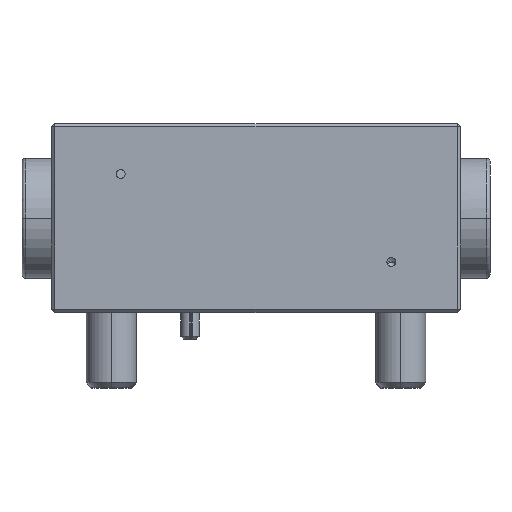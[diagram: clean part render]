
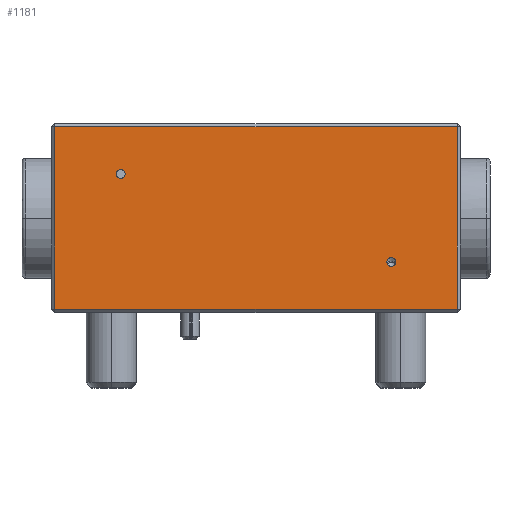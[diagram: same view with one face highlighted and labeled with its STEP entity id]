
A CAD part, top view. The second image highlights one B-rep face of the part: STEP entity #1181.
In plain terms, the highlighted planar face has unit normal (0, 0, 1).
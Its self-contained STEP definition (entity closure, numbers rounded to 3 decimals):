
#84 = ORIENTED_EDGE ( 'NONE', *, *, #4997, .T. ) ;
#688 = VERTEX_POINT ( 'NONE', #9455 ) ;
#799 = VERTEX_POINT ( 'NONE', #7774 ) ;
#919 = VECTOR ( 'NONE', #7552, 1000. ) ;
#1018 = ORIENTED_EDGE ( 'NONE', *, *, #5095, .F. ) ;
#1181 = ADVANCED_FACE ( 'NONE', ( #9036, #15653, #13327 ), #8245, .T. ) ;
#1537 = CARTESIAN_POINT ( 'NONE',  ( -32.5, 15., 32.5 ) ) ;
#1575 = EDGE_CURVE ( 'NONE', #13477, #10915, #7044, .T. ) ;
#1590 = DIRECTION ( 'NONE',  ( 0., 0., 1. ) ) ;
#1601 = EDGE_CURVE ( 'NONE', #15476, #799, #14602, .T. ) ;
#1736 = VECTOR ( 'NONE', #3644, 1000. ) ;
#1884 = AXIS2_PLACEMENT_3D ( 'NONE', #8626, #8646, #8672 ) ;
#1907 = AXIS2_PLACEMENT_3D ( 'NONE', #8129, #8153, #8194 ) ;
#2637 = CARTESIAN_POINT ( 'NONE',  ( -22.2, 7., 32.5 ) ) ;
#3059 = ORIENTED_EDGE ( 'NONE', *, *, #1601, .F. ) ;
#3644 = DIRECTION ( 'NONE',  ( 1., 0., 0. ) ) ;
#4120 = CARTESIAN_POINT ( 'NONE',  ( 32., -14.5, 32.5 ) ) ;
#4188 = CARTESIAN_POINT ( 'NONE',  ( 32.5, -14.5, 32.5 ) ) ;
#4233 = ORIENTED_EDGE ( 'NONE', *, *, #5041, .T. ) ;
#4323 = LINE ( 'NONE', #4188, #1736 ) ;
#4346 = DIRECTION ( 'NONE',  ( 1., 0., 0. ) ) ;
#4489 = VERTEX_POINT ( 'NONE', #4120 ) ;
#4576 = DIRECTION ( 'NONE',  ( 0., 0., 1. ) ) ;
#4633 = CARTESIAN_POINT ( 'NONE',  ( -21.5, 7., 32.5 ) ) ;
#4946 = CARTESIAN_POINT ( 'NONE',  ( -32., -14.5, 32.5 ) ) ;
#4997 = EDGE_CURVE ( 'NONE', #11361, #4489, #4323, .T. ) ;
#5041 = EDGE_CURVE ( 'NONE', #4489, #15957, #13923, .T. ) ;
#5090 = EDGE_CURVE ( 'NONE', #15957, #688, #7112, .T. ) ;
#5092 = EDGE_CURVE ( 'NONE', #688, #11361, #16683, .T. ) ;
#5095 = EDGE_CURVE ( 'NONE', #10915, #13477, #14932, .T. ) ;
#5117 = EDGE_CURVE ( 'NONE', #799, #15476, #10894, .T. ) ;
#5383 = DIRECTION ( 'NONE',  ( 0., 1., 0. ) ) ;
#5429 = ORIENTED_EDGE ( 'NONE', *, *, #1575, .F. ) ;
#5434 = CARTESIAN_POINT ( 'NONE',  ( 32., 15., 32.5 ) ) ;
#6219 = EDGE_LOOP ( 'NONE', ( #14915, #3059 ) ) ;
#6536 = CARTESIAN_POINT ( 'NONE',  ( -32.5, 14.5, 32.5 ) ) ;
#7044 = CIRCLE ( 'NONE', #11820, 0.7 ) ;
#7112 = LINE ( 'NONE', #6536, #919 ) ;
#7552 = DIRECTION ( 'NONE',  ( -1., 0., 0. ) ) ;
#7755 = CARTESIAN_POINT ( 'NONE',  ( -32., -15., 32.5 ) ) ;
#7774 = CARTESIAN_POINT ( 'NONE',  ( 22.2, -7., 32.5 ) ) ;
#7915 = DIRECTION ( 'NONE',  ( 1., 0., 0. ) ) ;
#7930 = DIRECTION ( 'NONE',  ( 0., -1., 0. ) ) ;
#8129 = CARTESIAN_POINT ( 'NONE',  ( -21.5, 7., 32.5 ) ) ;
#8153 = DIRECTION ( 'NONE',  ( 0., 0., 1. ) ) ;
#8194 = DIRECTION ( 'NONE',  ( 1., 0., 0. ) ) ;
#8245 = PLANE ( 'NONE',  #12570 ) ;
#8626 = CARTESIAN_POINT ( 'NONE',  ( 21.5, -7., 32.5 ) ) ;
#8646 = DIRECTION ( 'NONE',  ( 0., 0., 1. ) ) ;
#8672 = DIRECTION ( 'NONE',  ( 1., 0., 0. ) ) ;
#8928 = EDGE_LOOP ( 'NONE', ( #84, #4233, #14802, #15250 ) ) ;
#9036 = FACE_OUTER_BOUND ( 'NONE', #8928, .T. ) ;
#9204 = DIRECTION ( 'NONE',  ( 0., 0., 1. ) ) ;
#9267 = CARTESIAN_POINT ( 'NONE',  ( 21.5, -7., 32.5 ) ) ;
#9455 = CARTESIAN_POINT ( 'NONE',  ( -32., 14.5, 32.5 ) ) ;
#10188 = CARTESIAN_POINT ( 'NONE',  ( 32., 14.5, 32.5 ) ) ;
#10894 = CIRCLE ( 'NONE', #1884, 0.7 ) ;
#10915 = VERTEX_POINT ( 'NONE', #16154 ) ;
#11328 = VECTOR ( 'NONE', #7930, 1000. ) ;
#11361 = VERTEX_POINT ( 'NONE', #4946 ) ;
#11784 = AXIS2_PLACEMENT_3D ( 'NONE', #9267, #9204, #7915 ) ;
#11820 = AXIS2_PLACEMENT_3D ( 'NONE', #4633, #4576, #4346 ) ;
#12008 = EDGE_LOOP ( 'NONE', ( #1018, #5429 ) ) ;
#12570 = AXIS2_PLACEMENT_3D ( 'NONE', #1537, #1590, #14811 ) ;
#13168 = CARTESIAN_POINT ( 'NONE',  ( 20.8, -7., 32.5 ) ) ;
#13327 = FACE_BOUND ( 'NONE', #6219, .T. ) ;
#13477 = VERTEX_POINT ( 'NONE', #2637 ) ;
#13923 = LINE ( 'NONE', #5434, #16424 ) ;
#14602 = CIRCLE ( 'NONE', #11784, 0.7 ) ;
#14802 = ORIENTED_EDGE ( 'NONE', *, *, #5090, .T. ) ;
#14811 = DIRECTION ( 'NONE',  ( 1., 0., 0. ) ) ;
#14915 = ORIENTED_EDGE ( 'NONE', *, *, #5117, .F. ) ;
#14932 = CIRCLE ( 'NONE', #1907, 0.7 ) ;
#15250 = ORIENTED_EDGE ( 'NONE', *, *, #5092, .T. ) ;
#15476 = VERTEX_POINT ( 'NONE', #13168 ) ;
#15653 = FACE_BOUND ( 'NONE', #12008, .T. ) ;
#15957 = VERTEX_POINT ( 'NONE', #10188 ) ;
#16154 = CARTESIAN_POINT ( 'NONE',  ( -20.8, 7., 32.5 ) ) ;
#16424 = VECTOR ( 'NONE', #5383, 1000. ) ;
#16683 = LINE ( 'NONE', #7755, #11328 ) ;
